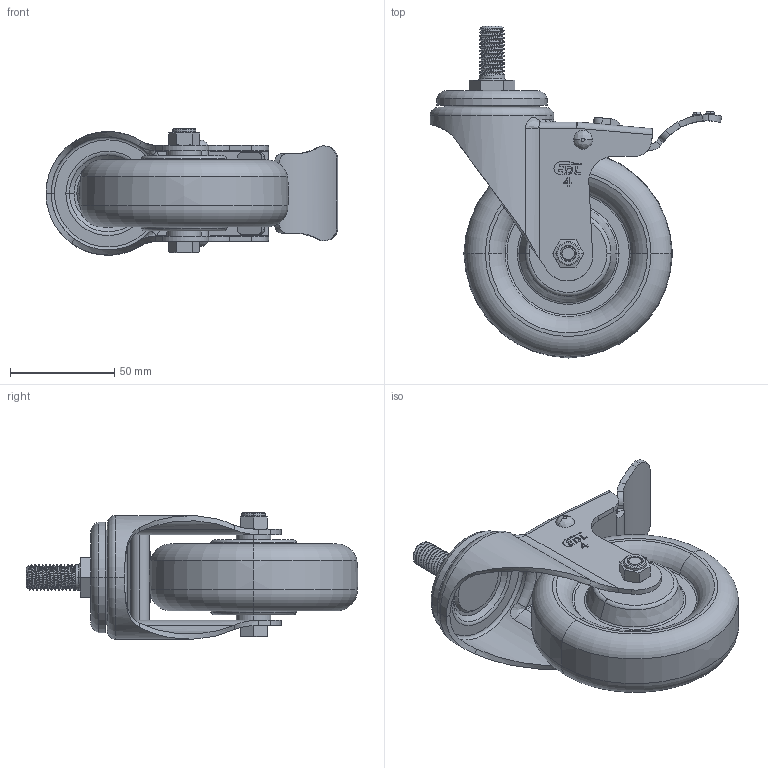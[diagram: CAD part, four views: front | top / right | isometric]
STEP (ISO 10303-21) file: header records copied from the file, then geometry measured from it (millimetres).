
FILE_DESCRIPTION((''),'2;1');
FILE_NAME('S54744L_ASM','2021-08-10T',('lenovo'),(''),'PRO/ENGINEER BY PARAMETRIC TECHNOLOGY CORPORATION, 2010280','PRO/ENGINEER BY PARAMETRIC TECHNOLOGY CORPORATION, 2010280','');
FILE_SCHEMA(('CONFIG_CONTROL_DESIGN'));
Length unit declared in the file: millimetre
Products named in the file (7): S544-12; S540-23; 504-986; S540-33; S540-34; S540-14; S54744L_ASM
Assembly tree (6 placements, depth 2):
  S54744L_ASM
    S544-12
    S540-23
    504-986
    S540-33
    S540-34
    S540-14
Bounding box: 139.79 x 158.98 x 60.65 mm (x, y, z)
Volume: 274433.9 mm3; surface area: 69510.1 mm2
Topology: 10 solids, 10 shells, 398 faces, 940 edges, 580 vertices
Faces by surface type: plane 160, cylinder 115, bspline 45, torus 38, cone 36, sphere 4
Entity records: 17331 total; most frequent: CARTESIAN_POINT 8256, ORIENTED_EDGE 1880, DIRECTION 1808, EDGE_CURVE 940, AXIS2_PLACEMENT_3D 671, VERTEX_POINT 580, VECTOR 466, LINE 466
